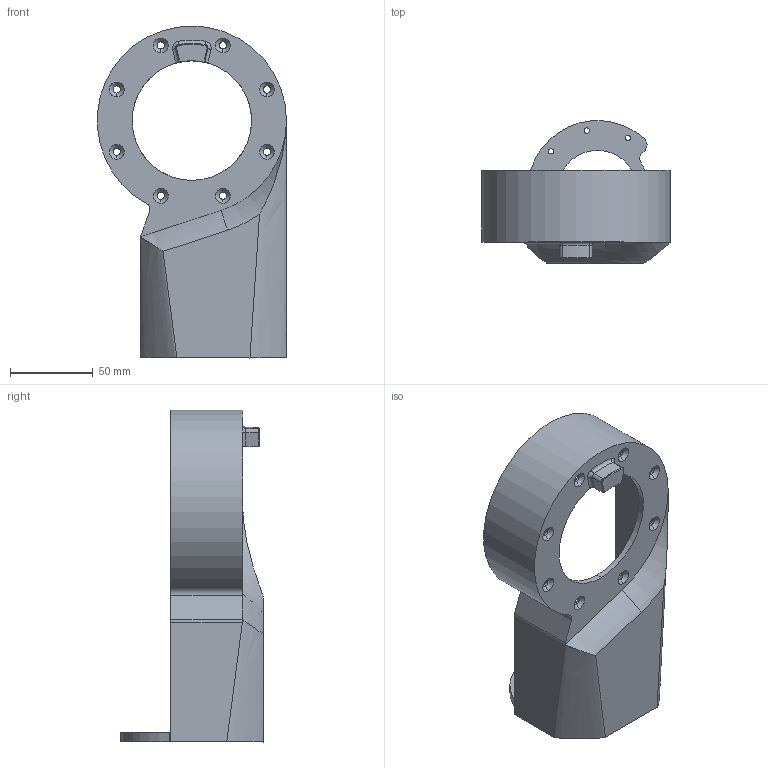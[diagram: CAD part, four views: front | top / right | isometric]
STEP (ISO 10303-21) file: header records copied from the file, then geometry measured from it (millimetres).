
FILE_DESCRIPTION((''),'2;1');
FILE_NAME('KD-C-201L_UPBICEPDRIVE_1','2025-07-12T13:16:19',('Administrator'),(''),'CREO PARAMETRIC BY PTC INC, 2022073','CREO PARAMETRIC BY PTC INC, 2022073','');
FILE_SCHEMA(('CONFIG_CONTROL_DESIGN'));
Length unit declared in the file: millimetre
Products named in the file (1): KD-C-201L_UPBICEPDRIVE_1
Bounding box: 113.82 x 85.9 x 200 mm (x, y, z)
Volume: 114034.3 mm3; surface area: 82233 mm2
Topology: 1 solids, 1 shells, 215 faces, 577 edges, 366 vertices
Faces by surface type: cylinder 96, cone 41, plane 38, bspline 30, torus 4, revolution 2, extrusion 2, sphere 2
Entity records: 11795 total; most frequent: CARTESIAN_POINT 6385, ORIENTED_EDGE 1136, DIRECTION 1118, EDGE_CURVE 568, AXIS2_PLACEMENT_3D 449, VERTEX_POINT 366, CIRCLE 268, EDGE_LOOP 260
